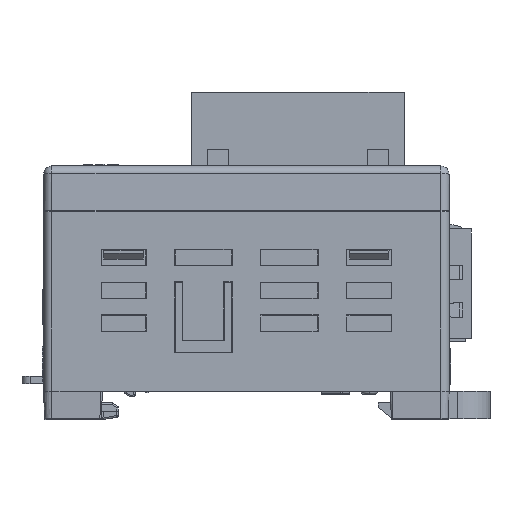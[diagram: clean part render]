
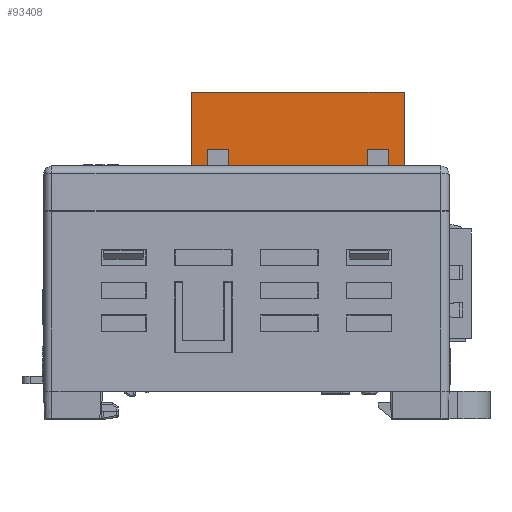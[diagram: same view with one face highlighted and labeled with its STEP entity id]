
A CAD part, left-side view. The second image highlights one B-rep face of the part: STEP entity #93408.
In plain terms, the highlighted planar face has unit normal (-1, 0, 0).
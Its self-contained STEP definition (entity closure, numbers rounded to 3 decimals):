
#1064=DIRECTION('',(0.,1.,0.));
#1065=VECTOR('',#1064,1.);
#1066=CARTESIAN_POINT('',(-13.22,-19.25,27.5));
#1067=LINE('',#1066,#1065);
#1080=DIRECTION('',(0.,1.,0.));
#1081=VECTOR('',#1080,1.);
#1082=CARTESIAN_POINT('',(-13.22,-13.3,27.5));
#1083=LINE('',#1082,#1081);
#1096=DIRECTION('',(0.,1.,0.));
#1097=VECTOR('',#1096,1.);
#1098=CARTESIAN_POINT('',(-13.22,-6.8,27.5));
#1099=LINE('',#1098,#1097);
#1112=DIRECTION('',(0.,1.,0.));
#1113=VECTOR('',#1112,1.);
#1114=CARTESIAN_POINT('',(-13.22,-0.3,27.5));
#1115=LINE('',#1114,#1113);
#1128=DIRECTION('',(0.,1.,0.));
#1129=VECTOR('',#1128,1.);
#1130=CARTESIAN_POINT('',(-13.22,5.65,27.5));
#1131=LINE('',#1130,#1129);
#8278=DIRECTION('',(0.,-1.,0.));
#8279=VECTOR('',#8278,0.9);
#8280=CARTESIAN_POINT('',(-13.22,-17.35,28.));
#8281=LINE('',#8280,#8279);
#8282=DIRECTION('',(0.,-1.,0.));
#8283=VECTOR('',#8282,2.6);
#8284=CARTESIAN_POINT('',(-13.22,-14.75,33.));
#8285=LINE('',#8284,#8283);
#8286=DIRECTION('',(0.,0.,1.));
#8287=VECTOR('',#8286,5.);
#8288=CARTESIAN_POINT('',(-13.22,-14.75,28.));
#8289=LINE('',#8288,#8287);
#8290=DIRECTION('',(0.,-1.,0.));
#8291=VECTOR('',#8290,1.45);
#8292=CARTESIAN_POINT('',(-13.22,-13.3,28.));
#8293=LINE('',#8292,#8291);
#8294=DIRECTION('',(0.,-1.,0.));
#8295=VECTOR('',#8294,5.5);
#8296=CARTESIAN_POINT('',(-13.22,-6.8,28.));
#8297=LINE('',#8296,#8295);
#8298=DIRECTION('',(0.,-1.,0.));
#8299=VECTOR('',#8298,5.5);
#8300=CARTESIAN_POINT('',(-13.22,-0.3,28.));
#8301=LINE('',#8300,#8299);
#8302=DIRECTION('',(0.,-1.,0.));
#8303=VECTOR('',#8302,1.45);
#8304=CARTESIAN_POINT('',(-13.22,2.15,28.));
#8305=LINE('',#8304,#8303);
#8306=DIRECTION('',(0.,-1.,0.));
#8307=VECTOR('',#8306,0.9);
#8308=CARTESIAN_POINT('',(-13.22,5.65,28.));
#8309=LINE('',#8308,#8307);
#8318=DIRECTION('',(0.,0.,1.));
#8319=VECTOR('',#8318,0.5);
#8320=CARTESIAN_POINT('',(-13.22,-18.25,27.5));
#8321=LINE('',#8320,#8319);
#8334=DIRECTION('',(0.,0.,-1.));
#8335=VECTOR('',#8334,12.5);
#8336=CARTESIAN_POINT('',(-13.22,-19.25,40.));
#8337=LINE('',#8336,#8335);
#8466=DIRECTION('',(0.,0.,1.));
#8467=VECTOR('',#8466,12.5);
#8468=CARTESIAN_POINT('',(-13.22,6.65,27.5));
#8469=LINE('',#8468,#8467);
#10216=DIRECTION('',(0.,0.,-1.));
#10217=VECTOR('',#10216,0.5);
#10218=CARTESIAN_POINT('',(-13.22,5.65,28.));
#10219=LINE('',#10218,#10217);
#10484=DIRECTION('',(0.,0.,-1.));
#10485=VECTOR('',#10484,5.);
#10486=CARTESIAN_POINT('',(-13.22,-17.35,33.));
#10487=LINE('',#10486,#10485);
#10820=DIRECTION('',(0.,0.,1.));
#10821=VECTOR('',#10820,5.);
#10822=CARTESIAN_POINT('',(-13.22,4.75,28.));
#10823=LINE('',#10822,#10821);
#10840=DIRECTION('',(0.,-1.,0.));
#10841=VECTOR('',#10840,2.6);
#10842=CARTESIAN_POINT('',(-13.22,4.75,33.));
#10843=LINE('',#10842,#10841);
#10848=DIRECTION('',(0.,0.,-1.));
#10849=VECTOR('',#10848,5.);
#10850=CARTESIAN_POINT('',(-13.22,2.15,33.));
#10851=LINE('',#10850,#10849);
#13804=DIRECTION('',(0.,-1.,0.));
#13805=VECTOR('',#13804,25.9);
#13806=CARTESIAN_POINT('',(-13.22,6.65,40.));
#13807=LINE('',#13806,#13805);
#14064=DIRECTION('',(0.,0.,-1.));
#14065=VECTOR('',#14064,0.5);
#14066=CARTESIAN_POINT('',(-13.22,-13.3,28.));
#14067=LINE('',#14066,#14065);
#14088=DIRECTION('',(0.,0.,1.));
#14089=VECTOR('',#14088,0.5);
#14090=CARTESIAN_POINT('',(-13.22,-12.3,27.5));
#14091=LINE('',#14090,#14089);
#14092=DIRECTION('',(0.,0.,-1.));
#14093=VECTOR('',#14092,0.5);
#14094=CARTESIAN_POINT('',(-13.22,-6.8,28.));
#14095=LINE('',#14094,#14093);
#14116=DIRECTION('',(0.,0.,1.));
#14117=VECTOR('',#14116,0.5);
#14118=CARTESIAN_POINT('',(-13.22,-5.8,27.5));
#14119=LINE('',#14118,#14117);
#14120=DIRECTION('',(0.,0.,-1.));
#14121=VECTOR('',#14120,0.5);
#14122=CARTESIAN_POINT('',(-13.22,-0.3,28.));
#14123=LINE('',#14122,#14121);
#14144=DIRECTION('',(0.,0.,1.));
#14145=VECTOR('',#14144,0.5);
#14146=CARTESIAN_POINT('',(-13.22,0.7,27.5));
#14147=LINE('',#14146,#14145);
#66721=CARTESIAN_POINT('',(-13.22,-14.75,28.));
#66723=VERTEX_POINT('',#66721);
#66726=CARTESIAN_POINT('',(-13.22,-17.35,28.));
#66727=VERTEX_POINT('',#66726);
#66728=CARTESIAN_POINT('',(-13.22,-18.25,28.));
#66729=VERTEX_POINT('',#66728);
#66806=CARTESIAN_POINT('',(-13.22,5.65,28.));
#66807=VERTEX_POINT('',#66806);
#66808=CARTESIAN_POINT('',(-13.22,4.75,28.));
#66809=VERTEX_POINT('',#66808);
#66814=CARTESIAN_POINT('',(-13.22,2.15,28.));
#66815=VERTEX_POINT('',#66814);
#66816=CARTESIAN_POINT('',(-13.22,0.7,28.));
#66817=VERTEX_POINT('',#66816);
#66822=CARTESIAN_POINT('',(-13.22,-0.3,28.));
#66823=VERTEX_POINT('',#66822);
#66824=CARTESIAN_POINT('',(-13.22,-5.8,28.));
#66825=VERTEX_POINT('',#66824);
#66830=CARTESIAN_POINT('',(-13.22,-6.8,28.));
#66831=VERTEX_POINT('',#66830);
#66832=CARTESIAN_POINT('',(-13.22,-12.3,28.));
#66833=VERTEX_POINT('',#66832);
#66838=CARTESIAN_POINT('',(-13.22,-13.3,28.));
#66839=VERTEX_POINT('',#66838);
#67842=CARTESIAN_POINT('',(-13.22,-17.35,33.));
#67843=VERTEX_POINT('',#67842);
#67844=CARTESIAN_POINT('',(-13.22,-14.75,33.));
#67845=VERTEX_POINT('',#67844);
#67846=CARTESIAN_POINT('',(-13.22,2.15,33.));
#67847=VERTEX_POINT('',#67846);
#67848=CARTESIAN_POINT('',(-13.22,4.75,33.));
#67849=VERTEX_POINT('',#67848);
#67850=CARTESIAN_POINT('',(-13.22,6.65,40.));
#67851=CARTESIAN_POINT('',(-13.22,-19.25,40.));
#67852=VERTEX_POINT('',#67850);
#67853=VERTEX_POINT('',#67851);
#77659=CARTESIAN_POINT('',(-13.22,-19.25,27.5));
#77660=CARTESIAN_POINT('',(-13.22,-18.25,27.5));
#77661=VERTEX_POINT('',#77659);
#77662=VERTEX_POINT('',#77660);
#77663=CARTESIAN_POINT('',(-13.22,-13.3,27.5));
#77664=CARTESIAN_POINT('',(-13.22,-12.3,27.5));
#77665=VERTEX_POINT('',#77663);
#77666=VERTEX_POINT('',#77664);
#77667=CARTESIAN_POINT('',(-13.22,-6.8,27.5));
#77668=CARTESIAN_POINT('',(-13.22,-5.8,27.5));
#77669=VERTEX_POINT('',#77667);
#77670=VERTEX_POINT('',#77668);
#77671=CARTESIAN_POINT('',(-13.22,-0.3,27.5));
#77672=CARTESIAN_POINT('',(-13.22,0.7,27.5));
#77673=VERTEX_POINT('',#77671);
#77674=VERTEX_POINT('',#77672);
#77675=CARTESIAN_POINT('',(-13.22,5.65,27.5));
#77676=CARTESIAN_POINT('',(-13.22,6.65,27.5));
#77677=VERTEX_POINT('',#77675);
#77678=VERTEX_POINT('',#77676);
#93357=CARTESIAN_POINT('',(-13.22,-6.3,33.5));
#93358=DIRECTION('',(1.,0.,0.));
#93359=DIRECTION('',(0.,0.,-1.));
#93360=AXIS2_PLACEMENT_3D('',#93357,#93358,#93359);
#93361=PLANE('',#93360);
#93362=ORIENTED_EDGE('',*,*,#79413,.T.);
#93364=ORIENTED_EDGE('',*,*,#93363,.T.);
#93365=ORIENTED_EDGE('',*,*,#92690,.F.);
#93367=ORIENTED_EDGE('',*,*,#93366,.F.);
#93369=ORIENTED_EDGE('',*,*,#93368,.F.);
#93370=ORIENTED_EDGE('',*,*,#93339,.F.);
#93371=ORIENTED_EDGE('',*,*,#92802,.F.);
#93373=ORIENTED_EDGE('',*,*,#93372,.T.);
#93374=ORIENTED_EDGE('',*,*,#79423,.T.);
#93376=ORIENTED_EDGE('',*,*,#93375,.T.);
#93377=ORIENTED_EDGE('',*,*,#92794,.F.);
#93379=ORIENTED_EDGE('',*,*,#93378,.T.);
#93380=ORIENTED_EDGE('',*,*,#79433,.T.);
#93382=ORIENTED_EDGE('',*,*,#93381,.T.);
#93383=ORIENTED_EDGE('',*,*,#92786,.F.);
#93385=ORIENTED_EDGE('',*,*,#93384,.T.);
#93386=ORIENTED_EDGE('',*,*,#79443,.T.);
#93388=ORIENTED_EDGE('',*,*,#93387,.T.);
#93389=ORIENTED_EDGE('',*,*,#92778,.F.);
#93391=ORIENTED_EDGE('',*,*,#93390,.F.);
#93393=ORIENTED_EDGE('',*,*,#93392,.F.);
#93395=ORIENTED_EDGE('',*,*,#93394,.F.);
#93396=ORIENTED_EDGE('',*,*,#92770,.F.);
#93398=ORIENTED_EDGE('',*,*,#93397,.T.);
#93399=ORIENTED_EDGE('',*,*,#79453,.T.);
#93401=ORIENTED_EDGE('',*,*,#93400,.T.);
#93403=ORIENTED_EDGE('',*,*,#93402,.T.);
#93405=ORIENTED_EDGE('',*,*,#93404,.T.);
#93406=EDGE_LOOP('',(#93362,#93364,#93365,#93367,#93369,#93370,#93371,#93373,
#93374,#93376,#93377,#93379,#93380,#93382,#93383,#93385,#93386,#93388,#93389,
#93391,#93393,#93395,#93396,#93398,#93399,#93401,#93403,#93405));
#93407=FACE_OUTER_BOUND('',#93406,.F.);
#93408=ADVANCED_FACE('',(#93407),#93361,.F.);
#79413=EDGE_CURVE('',#77661,#77662,#1067,.T.);
#79423=EDGE_CURVE('',#77665,#77666,#1083,.T.);
#79433=EDGE_CURVE('',#77669,#77670,#1099,.T.);
#79443=EDGE_CURVE('',#77673,#77674,#1115,.T.);
#79453=EDGE_CURVE('',#77677,#77678,#1131,.T.);
#92690=EDGE_CURVE('',#66727,#66729,#8281,.T.);
#92770=EDGE_CURVE('',#66807,#66809,#8309,.T.);
#92778=EDGE_CURVE('',#66815,#66817,#8305,.T.);
#92786=EDGE_CURVE('',#66823,#66825,#8301,.T.);
#92794=EDGE_CURVE('',#66831,#66833,#8297,.T.);
#92802=EDGE_CURVE('',#66839,#66723,#8293,.T.);
#93339=EDGE_CURVE('',#66723,#67845,#8289,.T.);
#93363=EDGE_CURVE('',#77662,#66729,#8321,.T.);
#93366=EDGE_CURVE('',#67843,#66727,#10487,.T.);
#93368=EDGE_CURVE('',#67845,#67843,#8285,.T.);
#93372=EDGE_CURVE('',#66839,#77665,#14067,.T.);
#93375=EDGE_CURVE('',#77666,#66833,#14091,.T.);
#93378=EDGE_CURVE('',#66831,#77669,#14095,.T.);
#93381=EDGE_CURVE('',#77670,#66825,#14119,.T.);
#93384=EDGE_CURVE('',#66823,#77673,#14123,.T.);
#93387=EDGE_CURVE('',#77674,#66817,#14147,.T.);
#93390=EDGE_CURVE('',#67847,#66815,#10851,.T.);
#93392=EDGE_CURVE('',#67849,#67847,#10843,.T.);
#93394=EDGE_CURVE('',#66809,#67849,#10823,.T.);
#93397=EDGE_CURVE('',#66807,#77677,#10219,.T.);
#93400=EDGE_CURVE('',#77678,#67852,#8469,.T.);
#93402=EDGE_CURVE('',#67852,#67853,#13807,.T.);
#93404=EDGE_CURVE('',#67853,#77661,#8337,.T.);
